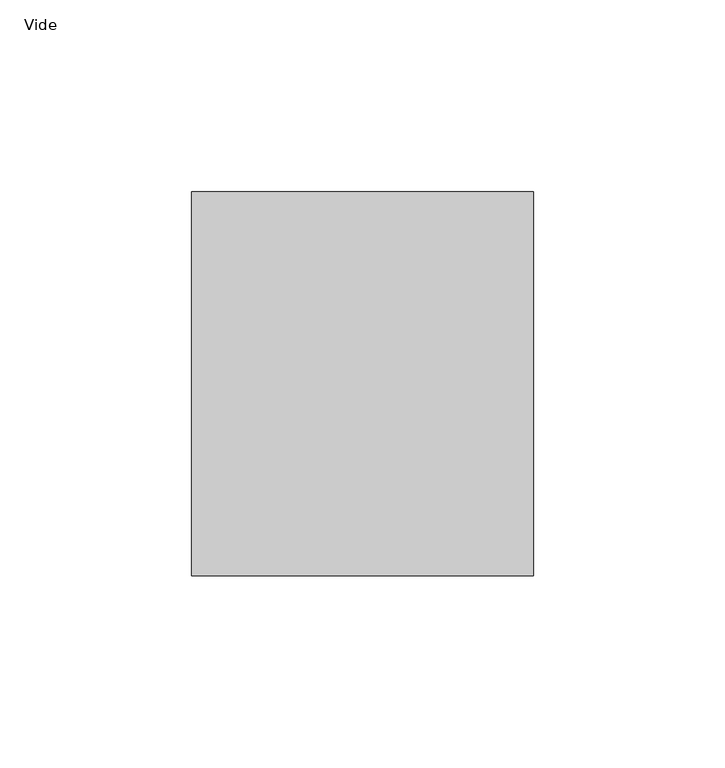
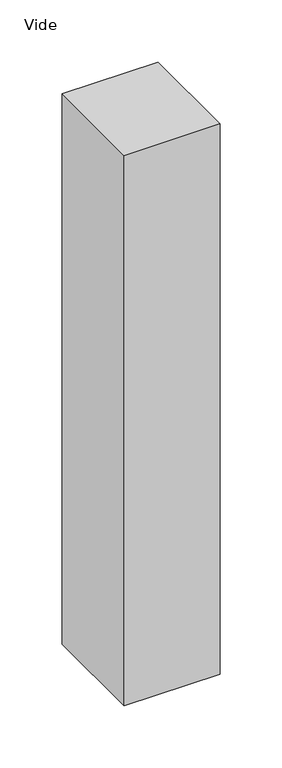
"""IFC4 building model written with IfcOpenShell, lengths in millimetres: plate geometry, Panneau système vide : Vide."""

from ifc_helpers import new_model, si_unit, origin, origin_with_axes, place, context, project, spatial, polyline, outline, extrude, source, transform, mapped, element, save


def vide_4c8c02ac(model_context):
    return source(origin(), model_context, "Body", "SweptSolid", [
        extrude(outline(polyline([(44.5000002, 50.0), (-44.5000002, 50.0), (-44.5000002, 150.0), (44.5000002, 150.0), (44.5000002, 50.0)])), origin_with_axes(), (0.0, 0.0, 1.0), 539.8914595),
    ])


if __name__ == "__main__":
    model = new_model("IFC4")
    model_context = context("Model", 3, world=origin())
    ifc_project = project(units=[si_unit("LENGTHUNIT", "METRE", prefix="MILLI")], contexts=[model_context])
    site = spatial("IfcSite", under=ifc_project)
    building = spatial("IfcBuilding", under=site)
    placement = place(None, origin())
    vide_shape = vide_4c8c02ac(model_context)
    element("IfcPlate", 1, ObjectType="Panneau système vide : Vide", at=placement, inside=building, context=model_context, shape_type="MappedRepresentation", body=[
        mapped(vide_shape, transform((0.0, 0.0, 0.0), x_axis=(1.0, 0.0, 0.0), y_axis=(0.0, 1.0, 0.0), z_axis=(0.0, 0.0, 1.0))),
    ])
    save(model, "model.ifc")
